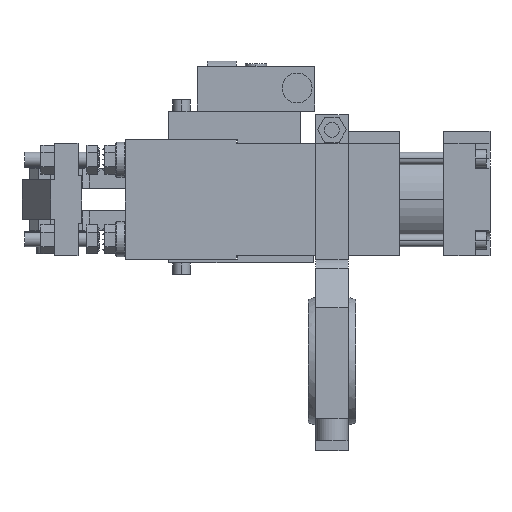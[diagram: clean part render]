
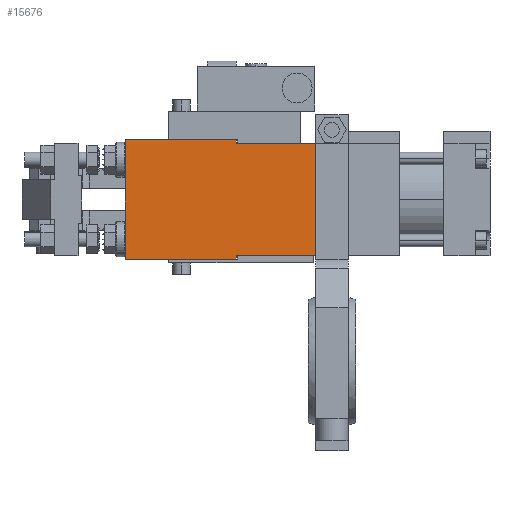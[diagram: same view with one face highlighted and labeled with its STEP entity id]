
A CAD part, left-side view. The second image highlights one B-rep face of the part: STEP entity #15676.
In plain terms, the highlighted planar face has unit normal (-1, 0, 0).
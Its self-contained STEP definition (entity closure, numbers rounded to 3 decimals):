
#387 = VECTOR ( 'NONE', #8113, 1000. ) ;
#679 = DIRECTION ( 'NONE',  ( 0., -1., 0. ) ) ;
#1013 = CARTESIAN_POINT ( 'NONE',  ( -22.5, 36.5, 24. ) ) ;
#1472 = EDGE_CURVE ( 'NONE', #10721, #5603, #20475, .T. ) ;
#1894 = VERTEX_POINT ( 'NONE', #21336 ) ;
#2049 = LINE ( 'NONE', #1013, #16941 ) ;
#2419 = CARTESIAN_POINT ( 'NONE',  ( -22.5, 22., -22.5 ) ) ;
#2802 = CARTESIAN_POINT ( 'NONE',  ( -22.5, 22., 22.5 ) ) ;
#2877 = LINE ( 'NONE', #8412, #7417 ) ;
#2979 = EDGE_CURVE ( 'NONE', #5001, #24101, #11157, .T. ) ;
#3352 = ORIENTED_EDGE ( 'NONE', *, *, #1472, .F. ) ;
#4416 = CARTESIAN_POINT ( 'NONE',  ( -22.5, -8., 24. ) ) ;
#4735 = DIRECTION ( 'NONE',  ( 0., -1., 0. ) ) ;
#4893 = CARTESIAN_POINT ( 'NONE',  ( -22.5, -40., 22.5 ) ) ;
#5001 = VERTEX_POINT ( 'NONE', #14484 ) ;
#5603 = VERTEX_POINT ( 'NONE', #11556 ) ;
#5991 = VECTOR ( 'NONE', #11481, 1000. ) ;
#6868 = DIRECTION ( 'NONE',  ( 0., 0., 1. ) ) ;
#7417 = VECTOR ( 'NONE', #679, 1000. ) ;
#7643 = PLANE ( 'NONE',  #15703 ) ;
#7655 = VECTOR ( 'NONE', #20112, 1000. ) ;
#7903 = VECTOR ( 'NONE', #4735, 1000. ) ;
#7979 = VERTEX_POINT ( 'NONE', #4416 ) ;
#8113 = DIRECTION ( 'NONE',  ( 0., 0., -1. ) ) ;
#8412 = CARTESIAN_POINT ( 'NONE',  ( -22.5, 22., -24. ) ) ;
#8565 = CARTESIAN_POINT ( 'NONE',  ( -22.5, -8., -22.5 ) ) ;
#9551 = CARTESIAN_POINT ( 'NONE',  ( -22.5, -8., -24. ) ) ;
#9612 = DIRECTION ( 'NONE',  ( 1., 0., 0. ) ) ;
#10470 = EDGE_LOOP ( 'NONE', ( #10714, #14413, #12346, #21711, #21978, #3352, #12256, #18564 ) ) ;
#10714 = ORIENTED_EDGE ( 'NONE', *, *, #21443, .F. ) ;
#10721 = VERTEX_POINT ( 'NONE', #4893 ) ;
#11157 = LINE ( 'NONE', #9551, #5991 ) ;
#11481 = DIRECTION ( 'NONE',  ( 0., 0., 1. ) ) ;
#11556 = CARTESIAN_POINT ( 'NONE',  ( -22.5, -40., -22.5 ) ) ;
#12076 = EDGE_CURVE ( 'NONE', #17020, #10721, #13045, .T. ) ;
#12125 = VECTOR ( 'NONE', #24290, 1000. ) ;
#12147 = DIRECTION ( 'NONE',  ( 0., -1., 0. ) ) ;
#12256 = ORIENTED_EDGE ( 'NONE', *, *, #12076, .F. ) ;
#12346 = ORIENTED_EDGE ( 'NONE', *, *, #18270, .T. ) ;
#12740 = LINE ( 'NONE', #20307, #12125 ) ;
#13045 = LINE ( 'NONE', #2802, #7903 ) ;
#14202 = VERTEX_POINT ( 'NONE', #17307 ) ;
#14413 = ORIENTED_EDGE ( 'NONE', *, *, #16297, .F. ) ;
#14484 = CARTESIAN_POINT ( 'NONE',  ( -22.5, -8., -24. ) ) ;
#14877 = EDGE_CURVE ( 'NONE', #7979, #17020, #12740, .T. ) ;
#15144 = CARTESIAN_POINT ( 'NONE',  ( -22.5, -8., 22.5 ) ) ;
#15313 = EDGE_CURVE ( 'NONE', #24101, #5603, #22490, .T. ) ;
#15676 = ADVANCED_FACE ( 'NONE', ( #23693 ), #7643, .F. ) ;
#15703 = AXIS2_PLACEMENT_3D ( 'NONE', #21282, #9612, #23219 ) ;
#16297 = EDGE_CURVE ( 'NONE', #14202, #1894, #2049, .T. ) ;
#16941 = VECTOR ( 'NONE', #6868, 1000. ) ;
#17020 = VERTEX_POINT ( 'NONE', #15144 ) ;
#17300 = VECTOR ( 'NONE', #12147, 1000. ) ;
#17307 = CARTESIAN_POINT ( 'NONE',  ( -22.5, 36.5, -24. ) ) ;
#18132 = CARTESIAN_POINT ( 'NONE',  ( -22.5, 22., 24. ) ) ;
#18270 = EDGE_CURVE ( 'NONE', #14202, #5001, #2877, .T. ) ;
#18564 = ORIENTED_EDGE ( 'NONE', *, *, #14877, .F. ) ;
#19763 = CARTESIAN_POINT ( 'NONE',  ( -22.5, -40., 12.5 ) ) ;
#20112 = DIRECTION ( 'NONE',  ( 0., -1., 0. ) ) ;
#20307 = CARTESIAN_POINT ( 'NONE',  ( -22.5, -8., 24. ) ) ;
#20475 = LINE ( 'NONE', #19763, #387 ) ;
#21282 = CARTESIAN_POINT ( 'NONE',  ( -22.5, 22., 12.5 ) ) ;
#21336 = CARTESIAN_POINT ( 'NONE',  ( -22.5, 36.5, 24. ) ) ;
#21443 = EDGE_CURVE ( 'NONE', #1894, #7979, #23193, .T. ) ;
#21711 = ORIENTED_EDGE ( 'NONE', *, *, #2979, .T. ) ;
#21978 = ORIENTED_EDGE ( 'NONE', *, *, #15313, .T. ) ;
#22490 = LINE ( 'NONE', #2419, #17300 ) ;
#23193 = LINE ( 'NONE', #18132, #7655 ) ;
#23219 = DIRECTION ( 'NONE',  ( 0., 1., 0. ) ) ;
#23693 = FACE_OUTER_BOUND ( 'NONE', #10470, .T. ) ;
#24101 = VERTEX_POINT ( 'NONE', #8565 ) ;
#24290 = DIRECTION ( 'NONE',  ( 0., 0., -1. ) ) ;
